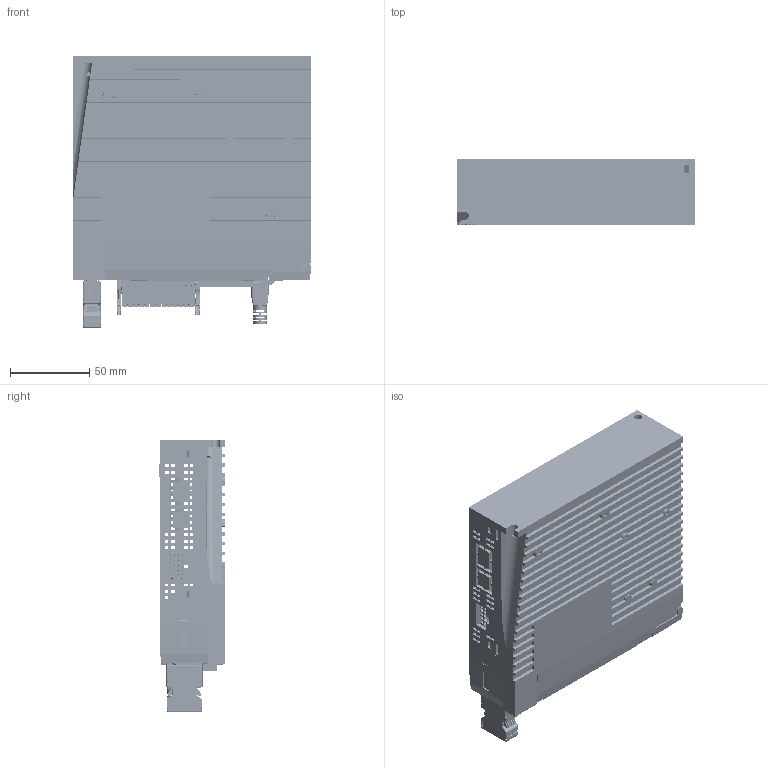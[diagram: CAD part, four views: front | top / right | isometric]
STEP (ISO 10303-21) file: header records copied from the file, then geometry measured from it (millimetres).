
FILE_DESCRIPTION((''),'2;1');
FILE_NAME('M56S-21A8ECX','2023-08-15T13:56:11',('ms27526'),(''),'CREO PARAMETRIC BY PTC INC, 2018100','CREO PARAMETRIC BY PTC INC, 2018100','');
FILE_SCHEMA(('CONFIG_CONTROL_DESIGN'));
Products named in the file (1): M56S-21A8ECX
Bounding box: 150.19 x 41.2 x 171.63 mm (x, y, z)
Volume: 168630.4 mm3; surface area: 248806.2 mm2
Topology: 26 solids, 83 shells, 15980 faces, 43484 edges, 27276 vertices
Faces by surface type: plane 8710, cylinder 4687, cone 1190, bspline 725, torus 441, sphere 181, extrusion 46
Entity records: 558730 total; most frequent: CARTESIAN_POINT 160939, ORIENTED_EDGE 85243, DIRECTION 78779, EDGE_CURVE 43004, VECTOR 28795, LINE 28749, VERTEX_POINT 27276, AXIS2_PLACEMENT_3D 24992
